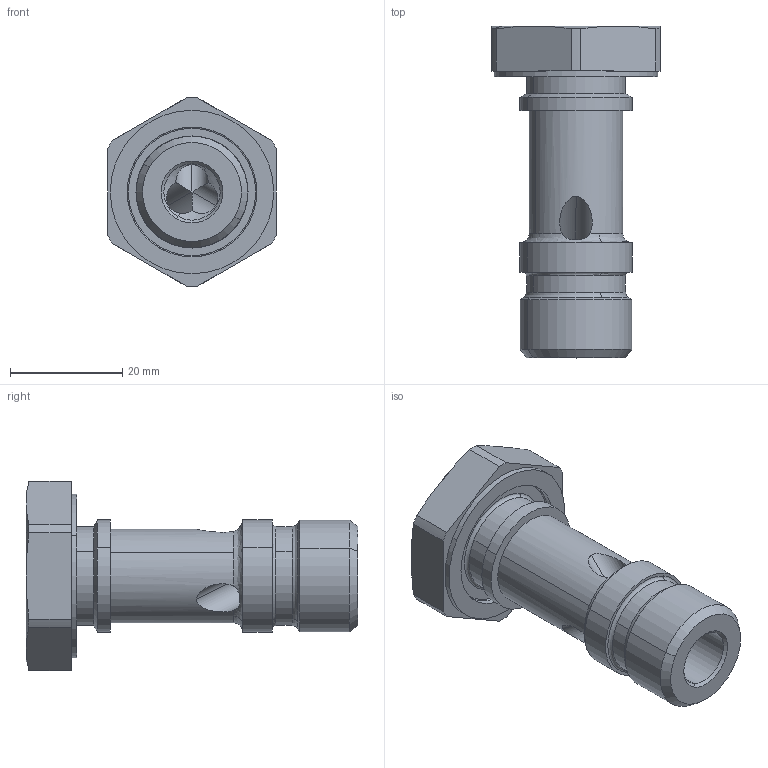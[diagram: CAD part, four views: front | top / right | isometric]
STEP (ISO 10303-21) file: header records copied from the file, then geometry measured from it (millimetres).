
FILE_DESCRIPTION((''),'2;1');
FILE_NAME('108207.0.stp','2007-11-06T08:36:55',(''),(''),'AutoCAD STEP 2000i','AutoCAD 2000i',', , ');
FILE_SCHEMA(('CONFIG_CONTROL_DESIGN'));
Length unit declared in the file: millimetre
Products named in the file (2): 108207.0; 1082#0
Assembly tree (1 placements, depth 2):
  108207.0
    1082#0
Bounding box: 30 x 59 x 33.7 mm (x, y, z)
Volume: 17347.7 mm3; surface area: 6515 mm2
Topology: 1 solids, 1 shells, 72 faces, 189 edges, 120 vertices
Faces by surface type: cylinder 30, cone 18, plane 14, bspline 10
Entity records: 3090 total; most frequent: CARTESIAN_POINT 1216, DIRECTION 388, ORIENTED_EDGE 378, EDGE_CURVE 189, AXIS2_PLACEMENT_3D 167, VERTEX_POINT 120, CIRCLE 100, EDGE_LOOP 79
